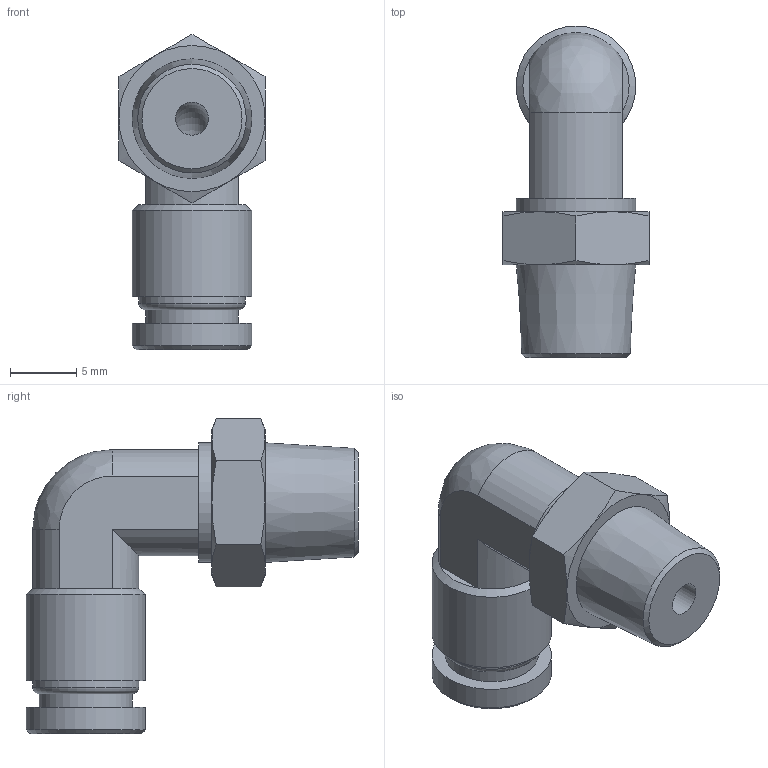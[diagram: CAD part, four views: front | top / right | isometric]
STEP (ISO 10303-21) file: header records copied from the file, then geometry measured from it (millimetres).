
FILE_DESCRIPTION(/* description */ (''),/* implementation_level */ '2;1');
FILE_NAME(/* name */ 'LXH21 0004 B1.stp',/* time_stamp */ '2026-05-01T12:11:02+02:00',/* author */ ('freju'),/* organization */ (''),/* preprocessor_version */ 'ST-DEVELOPER v20.1',/* originating_system */ 'Autodesk Inventor 2026',/* authorisation */ '');
FILE_SCHEMA (('AUTOMOTIVE_DESIGN { 1 0 10303 214 3 1 1 }'));
Length unit declared in the file: millimetre
Products named in the file (1): LXH21 0004 B1
Bounding box: 11 x 25 x 23.75 mm (x, y, z)
Volume: 1914.9 mm3; surface area: 1609.8 mm2
Topology: 1 solids, 1 shells, 49 faces, 106 edges, 65 vertices
Faces by surface type: plane 18, cone 16, cylinder 12, torus 2, bspline 1
Full cylindrical faces by diameter (mm): 2.5 x2, 4 x1, 7 x1, 8 x1, 9 x3
Entity records: 1369 total; most frequent: CARTESIAN_POINT 283, DIRECTION 232, ORIENTED_EDGE 212, EDGE_CURVE 106, AXIS2_PLACEMENT_3D 101, VERTEX_POINT 65, EDGE_LOOP 57, CIRCLE 51
